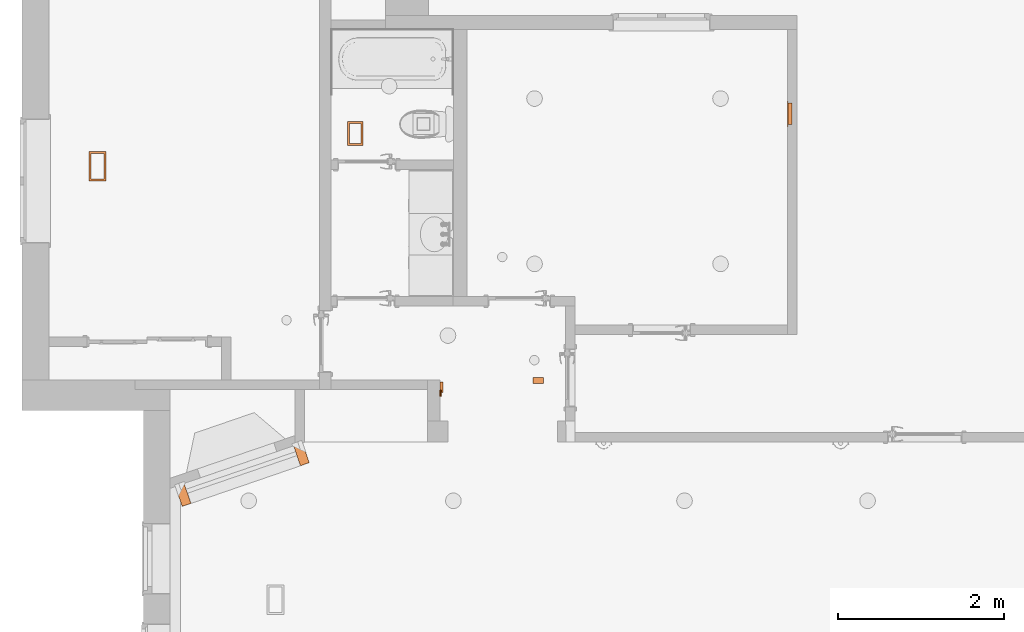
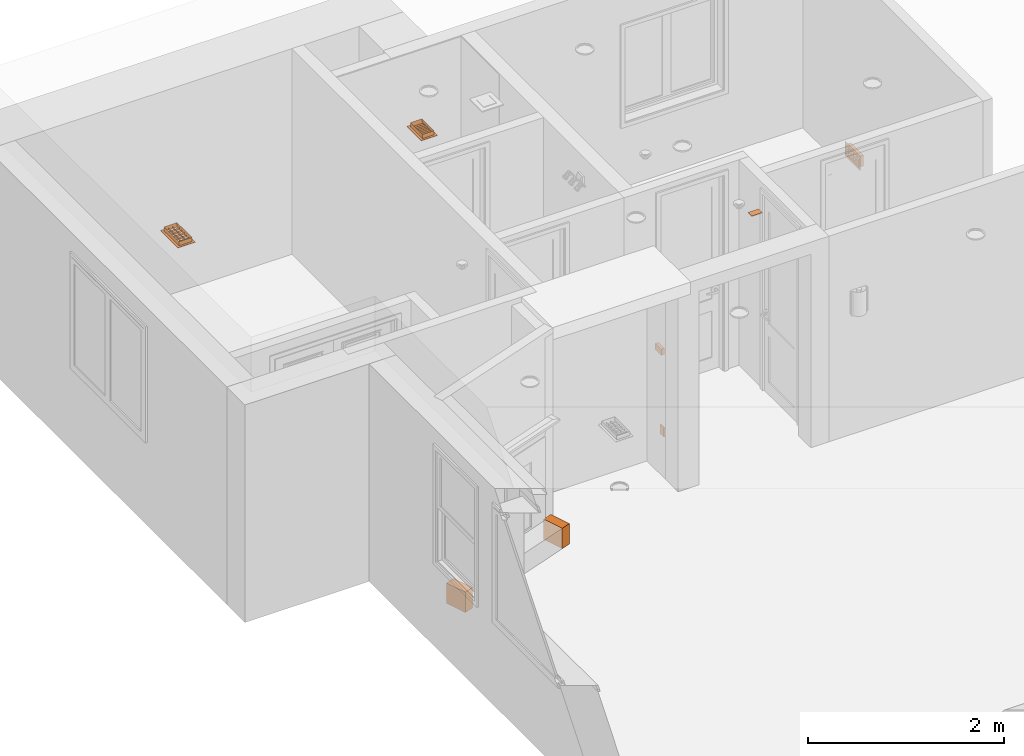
# One storey, part 23 of 24: 8 proxies.
"""IFC2X3 building model written with IfcOpenShell, lengths in inches."""

from ifc_helpers import new_model, entity, si_unit, converted_unit, derived_unit, money_unit, direction, frame, origin_with_axes, place, context, subcontext, project, spatial, open_shell, faceted_brep, surface_model, material, type_object, element, save


model = new_model("IFC2X3")

# Units and contexts
model_context = context("Model", 3, precision=0.000393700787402, world=origin_with_axes(), true_north=direction((0.0, 1.0)))
body_context = subcontext(model_context, "Body", "Model", "MODEL_VIEW")
ifc_project = project(units=[converted_unit("LENGTHUNIT", "INCH", entity("IfcPositiveLengthMeasure", 0.0254), si_unit("LENGTHUNIT", "METRE"), dimensions=[1, 0, 0, 0, 0, 0, 0]), converted_unit("AREAUNIT", "SQUARE_FOOT", entity("IfcPositiveLengthMeasure", 0.09290304), si_unit("AREAUNIT", "SQUARE_METRE"), dimensions=[2, 0, 0, 0, 0, 0, 0]), si_unit("PLANEANGLEUNIT", "RADIAN"), si_unit("SOLIDANGLEUNIT", "STERADIAN"), money_unit("USD"), converted_unit("TIMEUNIT", "Year", entity("IfcTimeMeasure", 31556926.0), si_unit("TIMEUNIT", "SECOND"), dimensions=[0, 0, 1, 0, 0, 0, 0]), si_unit("MASSUNIT", "GRAM", prefix="KILO"), si_unit("THERMODYNAMICTEMPERATUREUNIT", "DEGREE_CELSIUS"), si_unit("LUMINOUSINTENSITYUNIT", "LUMEN"), si_unit("ENERGYUNIT", "JOULE", prefix="MEGA"), derived_unit("THERMALCONDUCTANCEUNIT", [(si_unit("POWERUNIT", "WATT"), 1), (si_unit("LENGTHUNIT", "METRE"), -1), (si_unit("THERMODYNAMICTEMPERATUREUNIT", "KELVIN"), -1)]), derived_unit("SPECIFICHEATCAPACITYUNIT", [(si_unit("ENERGYUNIT", "JOULE"), 1), (si_unit("MASSUNIT", "GRAM", prefix="KILO"), -1), (si_unit("THERMODYNAMICTEMPERATUREUNIT", "KELVIN"), -1)]), derived_unit("MASSDENSITYUNIT", [(si_unit("MASSUNIT", "GRAM", prefix="KILO"), 1), (si_unit("VOLUMEUNIT", "CUBIC_METRE"), -1)])], contexts=[model_context])

# Site, building, storey
site_placement = place(None, origin_with_axes())
site = spatial("IfcSite", under=ifc_project, at=site_placement, Name="Site", CompositionType="ELEMENT")
building_placement = place(site_placement, origin_with_axes())
building = spatial("IfcBuilding", under=site, at=building_placement, Name="Building", CompositionType="ELEMENT")
storey_placement = place(building_placement, origin_with_axes())
storey = spatial("IfcBuildingStorey", under=building, at=storey_placement, Name="First Floor", CompositionType="ELEMENT", Elevation=0.0)

# Proxies
ifc_material = material(Name="Generic - Structural")
building_element_proxy_type_1 = type_object("IfcBuildingElementProxyType", Name="Generic - Structural", PredefinedType="NOTDEFINED")
proxy_1_placement = place(storey_placement, frame((1662.98964339, 401.098213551, 100.787401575), z_axis=(0.0, 0.0, 1.0), x_axis=(1.0, 0.0, 0.0)))
element("IfcBuildingElementProxy", 1, at=proxy_1_placement, inside=storey, type_object=building_element_proxy_type_1, material=ifc_material, Name="MORPH-014", context=body_context, shape_type="Brep", body=[
    faceted_brep([(-1200.0, -2.95381883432, 0.0), (-1200.0, 0.0, 0.0), (-1195.06293698, 0.0, 0.0), (-1195.06293698, -2.95381883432, 0.0), (-1200.0, -2.95381883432, 0.25), (-1200.0, 0.0, 0.25), (-1195.06293698, 0.0, 0.25), (-1195.06293698, -2.95381883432, 0.25)], [[[0, 1, 2, 3]], [[1, 0, 4, 5]], [[2, 1, 5, 6]], [[3, 2, 6]], [[0, 3, 7]], [[4, 0, 7]], [[5, 4, 7, 6]], [[7, 3, 6]]]),
])
proxy_2_placement = place(storey_placement, frame((418.622999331, 395.528794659, 11.6141732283), z_axis=(0.0, 0.0, 1.0), x_axis=(1.0, 0.0, 0.0)))
element("IfcBuildingElementProxy", 2, at=proxy_2_placement, inside=storey, type_object=building_element_proxy_type_1, material=ifc_material, Name="MO-01", context=body_context, shape_type="Brep", body=[
    faceted_brep([(-0.00155956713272, -3.46078669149, 0.0), (-0.00155956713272, -3.46078669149, 4.5), (0.0, -0.5, 4.5), (0.0, -0.5, 0.0), (0.579371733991, -3.46078669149, 0.0), (0.579371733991, -3.46078669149, 4.5), (0.579371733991, -0.5, 4.5), (0.579371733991, -0.5, 0.0)], [[[0, 1, 2, 3]], [[1, 0, 4]], [[2, 1, 5, 6]], [[2, 6, 7, 3]], [[0, 3, 7, 4]], [[5, 1, 4]], [[5, 4, 6]], [[7, 6, 4]]]),
])
proxy_3_placement = place(storey_placement, frame((1618.62143976, 398.904421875, 50.5905511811), z_axis=(0.0, 0.0, 1.0), x_axis=(1.0, 0.0, 0.0)))
element("IfcBuildingElementProxy", 3, at=proxy_3_placement, inside=storey, type_object=building_element_proxy_type_1, material=ifc_material, Name="MORPH-013", context=body_context, shape_type="Brep", body=[
    faceted_brep([(-1200.0, 0.0, 0.0), (-1200.0, -4.92993877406, 0.0), (-1200.0, -4.92993877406, 3.0), (-1200.0, 0.0, 3.0), (-1198.43556971, 0.0, 0.0), (-1198.43556971, -4.92993877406, 0.0), (-1198.43556971, -4.92993877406, 3.0), (-1198.43556971, 0.0, 3.0)], [[[0, 1, 2, 3]], [[1, 0, 4, 5]], [[2, 1, 6]], [[3, 2, 6, 7]], [[4, 0, 3, 7]], [[4, 7, 5]], [[1, 5, 6]], [[6, 5, 7]]]),
])
proxy_4_placement = place(storey_placement, frame((1556.40857705, 353.563761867, 9.97417076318), z_axis=(0.0, 0.0, 1.0), x_axis=(0.999981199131, -0.00613199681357, 0.0)))
element("IfcBuildingElementProxy", 4, at=proxy_4_placement, inside=storey, type_object=building_element_proxy_type_1, material=ifc_material, Name="MO-11", context=body_context, shape_type="Brep", body=[
    faceted_brep([(-1204.01221776, -1.82958149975, 0.00249214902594), (-1207.32072405, 7.60724971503, 0.00249214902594), (-1207.32072405, 7.60724971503, -9.97167861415), (-1199.86734949, -0.379045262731, 0.0), (-1203.16646595, 9.03095476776, 0.0), (-1204.01221776, -1.82958149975, -9.97167861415), (-1199.87269224, -0.380915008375, -9.97417076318), (-1203.16646595, 9.03095476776, -9.97417076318)], [[[0, 1, 2]], [[1, 0, 3, 4]], [[2, 1, 4]], [[2, 5, 0]], [[0, 5, 6, 3]], [[7, 4, 3]], [[7, 2, 4]], [[5, 2, 7, 6]], [[6, 7, 3]]]),
])
proxy_5_placement = place(storey_placement, frame((1500.40058775, 341.239752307, 9.97417076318), z_axis=(0.0, 0.0, 1.0), x_axis=(1.0, 0.0, 0.0)))
element("IfcBuildingElementProxy", 5, at=proxy_5_placement, inside=storey, type_object=building_element_proxy_type_1, material=ifc_material, Name="MO-11", context=body_context, shape_type="Brep", body=[
    faceted_brep([(-1207.45796587, 8.01063153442, -9.97167861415), (-1204.15021102, -1.45240598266, -9.97167861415), (-1204.14486827, -1.45053623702, 0.00249214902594), (-1203.31363551, 9.43532883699, -9.97417076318), (-1200.00534275, -0.00186974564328, -9.97417076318), (-1200.00534168, -0.00187278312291, 0.0), (-1207.45796587, 8.01063153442, 0.00249214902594), (-1203.31363551, 9.43532883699, 0.0)], [[[0, 1, 2]], [[1, 0, 3, 4]], [[2, 1, 4, 5]], [[2, 6, 0]], [[0, 7, 3]], [[4, 3, 5]], [[6, 2, 5, 7]], [[0, 6, 7]], [[3, 7, 5]]]),
])
building_element_proxy_type_2 = type_object("IfcBuildingElementProxyType", Name="Ceiling Grille 25", PredefinedType="NOTDEFINED")
proxy_6_placement = place(storey_placement, frame((256.013265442, 501.430794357, 101.0), z_axis=(0.0, 0.0, 1.0), x_axis=(-1.0, 0.0, 0.0)))
element("IfcBuildingElementProxy", 6, at=proxy_6_placement, inside=storey, type_object=building_element_proxy_type_2, Name="FU - 009", context=body_context, shape_type="SurfaceModel", body=[
    faceted_brep([(4.03543307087, 6.98818897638, -0.196850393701), (-4.03543307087, 6.98818897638, -0.196850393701), (-4.03543307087, 6.98818897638, 0.0), (4.03543307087, 6.98818897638, 0.0), (4.03543307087, -6.98818897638, -0.196850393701), (-4.03543307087, -6.98818897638, -0.196850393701), (3.05118110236, 6.00393700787, -0.196850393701), (-3.05118110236, 6.00393700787, -0.196850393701), (-3.05118110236, -6.00393700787, -0.196850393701), (3.05118110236, -6.00393700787, -0.196850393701), (-4.03543307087, -6.98818897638, 0.0), (4.03543307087, -6.98818897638, 0.0), (3.05118110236, 6.00393700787, 0.0), (3.05118110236, -6.00393700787, 0.0), (-3.05118110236, -6.00393700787, 0.0), (-3.05118110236, 6.00393700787, 0.0)], [[[0, 1, 2, 3]], [[0, 4, 5, 1], [6, 7, 8, 9]], [[1, 5, 10, 2]], [[3, 2, 10, 11], [12, 13, 14, 15]], [[4, 0, 3, 11]], [[5, 4, 11, 10]], [[7, 6, 12, 15]], [[8, 7, 15, 14]], [[9, 8, 14, 13]], [[6, 9, 13, 12]]]),
    surface_model("IfcShellBasedSurfaceModel", [(-3.01181102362, 5.90551181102, -0.196850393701), (3.01181102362, 5.90551181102, -0.196850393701), (3.01181102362, 5.90551181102, 0.787401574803), (-3.01181102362, 5.90551181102, 0.787401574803)], [open_shell([[[0, 1, 2, 3]]])]),
    surface_model("IfcShellBasedSurfaceModel", [(-3.01181102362, 3.93700787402, -0.196850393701), (3.01181102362, 3.93700787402, -0.196850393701), (3.01181102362, 3.93700787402, 0.787401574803), (-3.01181102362, 3.93700787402, 0.787401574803)], [open_shell([[[0, 1, 2, 3]]])]),
    surface_model("IfcShellBasedSurfaceModel", [(-3.01181102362, 1.96850393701, -0.196850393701), (3.01181102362, 1.96850393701, -0.196850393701), (3.01181102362, 1.96850393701, 0.787401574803), (-3.01181102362, 1.96850393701, 0.787401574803)], [open_shell([[[0, 1, 2, 3]]])]),
    surface_model("IfcShellBasedSurfaceModel", [(-3.01181102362, 0.0, -0.196850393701), (3.01181102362, 0.0, -0.196850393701), (3.01181102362, 0.0, 0.787401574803), (-3.01181102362, 0.0, 0.787401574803)], [open_shell([[[0, 1, 2, 3]]])]),
    surface_model("IfcShellBasedSurfaceModel", [(-3.01181102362, -1.96850393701, -0.196850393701), (3.01181102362, -1.96850393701, -0.196850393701), (3.01181102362, -1.96850393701, 0.787401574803), (-3.01181102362, -1.96850393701, 0.787401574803)], [open_shell([[[0, 1, 2, 3]]])]),
    surface_model("IfcShellBasedSurfaceModel", [(-3.01181102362, -3.93700787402, -0.196850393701), (3.01181102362, -3.93700787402, -0.196850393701), (3.01181102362, -3.93700787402, 0.787401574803), (-3.01181102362, -3.93700787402, 0.787401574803)], [open_shell([[[0, 1, 2, 3]]])]),
    surface_model("IfcShellBasedSurfaceModel", [(-3.01181102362, -5.90551181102, -0.196850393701), (3.01181102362, -5.90551181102, -0.196850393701), (3.01181102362, -5.90551181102, 0.787401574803), (-3.01181102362, -5.90551181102, 0.787401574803)], [open_shell([[[0, 1, 2, 3]]])]),
    surface_model("IfcShellBasedSurfaceModel", [(2.95275590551, -5.96456692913, -0.196850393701), (2.95275590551, 5.96456692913, -0.196850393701), (2.95275590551, 5.96456692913, 0.787401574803), (2.95275590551, -5.96456692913, 0.787401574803)], [open_shell([[[0, 1, 2, 3]]])]),
    surface_model("IfcShellBasedSurfaceModel", [(0.984251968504, -5.96456692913, -0.196850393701), (0.984251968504, 5.96456692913, -0.196850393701), (0.984251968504, 5.96456692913, 0.787401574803), (0.984251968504, -5.96456692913, 0.787401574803)], [open_shell([[[0, 1, 2, 3]]])]),
    surface_model("IfcShellBasedSurfaceModel", [(-0.984251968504, -5.96456692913, -0.196850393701), (-0.984251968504, 5.96456692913, -0.196850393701), (-0.984251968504, 5.96456692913, 0.787401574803), (-0.984251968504, -5.96456692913, 0.787401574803)], [open_shell([[[0, 1, 2, 3]]])]),
    surface_model("IfcShellBasedSurfaceModel", [(-2.95275590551, -5.96456692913, -0.196850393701), (-2.95275590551, 5.96456692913, -0.196850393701), (-2.95275590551, 5.96456692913, 0.787401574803), (-2.95275590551, -5.96456692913, 0.787401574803)], [open_shell([[[0, 1, 2, 3]]])]),
    surface_model("IfcShellBasedSurfaceModel", [(3.05118110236, -6.00393700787, 0.0), (3.05118110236, 6.00393700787, 0.0), (3.05118110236, 6.00393700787, 1.96850393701), (3.05118110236, -6.00393700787, 1.96850393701), (-3.05118110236, 6.00393700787, 0.0), (-3.05118110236, 6.00393700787, 1.96850393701), (-3.05118110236, -6.00393700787, 0.0), (-3.05118110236, -6.00393700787, 1.96850393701)], [open_shell([[[0, 1, 2, 3]], [[1, 4, 5, 2]], [[6, 0, 3, 7]], [[4, 6, 7, 5]]])]),
])
proxy_7_placement = place(storey_placement, frame((378.513737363, 516.986715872, 100.5), z_axis=(0.0, 0.0, 1.0), x_axis=(-1.0, 0.0, 0.0)))
element("IfcBuildingElementProxy", 7, at=proxy_7_placement, inside=storey, type_object=building_element_proxy_type_2, Name="FU - 009", context=body_context, shape_type="SurfaceModel", body=[
    faceted_brep([(3.74015748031, 5.80708661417, -0.196850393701), (-3.74015748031, 5.80708661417, -0.196850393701), (-3.74015748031, 5.80708661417, 0.0), (3.74015748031, 5.80708661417, 0.0), (3.74015748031, -5.80708661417, -0.196850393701), (-3.74015748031, -5.80708661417, -0.196850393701), (2.75590551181, 4.82283464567, -0.196850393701), (-2.75590551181, 4.82283464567, -0.196850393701), (-2.75590551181, -4.82283464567, -0.196850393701), (2.75590551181, -4.82283464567, -0.196850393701), (-3.74015748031, -5.80708661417, 0.0), (3.74015748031, -5.80708661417, 0.0), (2.75590551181, 4.82283464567, 0.0), (2.75590551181, -4.82283464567, 0.0), (-2.75590551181, -4.82283464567, 0.0), (-2.75590551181, 4.82283464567, 0.0)], [[[0, 1, 2, 3]], [[0, 4, 5, 1], [6, 7, 8, 9]], [[1, 5, 10, 2]], [[3, 2, 10, 11], [12, 13, 14, 15]], [[4, 0, 3, 11]], [[5, 4, 11, 10]], [[7, 6, 12, 15]], [[8, 7, 15, 14]], [[9, 8, 14, 13]], [[6, 9, 13, 12]]]),
    surface_model("IfcShellBasedSurfaceModel", [(-2.71653543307, 4.5, -0.196850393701), (2.71653543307, 4.5, -0.196850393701), (2.71653543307, 4.5, 0.787401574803), (-2.71653543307, 4.5, 0.787401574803)], [open_shell([[[0, 1, 2, 3]]])]),
    surface_model("IfcShellBasedSurfaceModel", [(-2.71653543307, 3.5, -0.196850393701), (2.71653543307, 3.5, -0.196850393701), (2.71653543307, 3.5, 0.787401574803), (-2.71653543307, 3.5, 0.787401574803)], [open_shell([[[0, 1, 2, 3]]])]),
    surface_model("IfcShellBasedSurfaceModel", [(-2.71653543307, 2.5, -0.196850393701), (2.71653543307, 2.5, -0.196850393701), (2.71653543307, 2.5, 0.787401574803), (-2.71653543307, 2.5, 0.787401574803)], [open_shell([[[0, 1, 2, 3]]])]),
    surface_model("IfcShellBasedSurfaceModel", [(-2.71653543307, 1.5, -0.196850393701), (2.71653543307, 1.5, -0.196850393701), (2.71653543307, 1.5, 0.787401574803), (-2.71653543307, 1.5, 0.787401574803)], [open_shell([[[0, 1, 2, 3]]])]),
    surface_model("IfcShellBasedSurfaceModel", [(-2.71653543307, 0.5, -0.196850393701), (2.71653543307, 0.5, -0.196850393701), (2.71653543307, 0.5, 0.787401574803), (-2.71653543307, 0.5, 0.787401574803)], [open_shell([[[0, 1, 2, 3]]])]),
    surface_model("IfcShellBasedSurfaceModel", [(-2.71653543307, -0.5, -0.196850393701), (2.71653543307, -0.5, -0.196850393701), (2.71653543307, -0.5, 0.787401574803), (-2.71653543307, -0.5, 0.787401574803)], [open_shell([[[0, 1, 2, 3]]])]),
    surface_model("IfcShellBasedSurfaceModel", [(-2.71653543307, -1.5, -0.196850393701), (2.71653543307, -1.5, -0.196850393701), (2.71653543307, -1.5, 0.787401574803), (-2.71653543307, -1.5, 0.787401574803)], [open_shell([[[0, 1, 2, 3]]])]),
    surface_model("IfcShellBasedSurfaceModel", [(-2.71653543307, -2.5, -0.196850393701), (2.71653543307, -2.5, -0.196850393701), (2.71653543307, -2.5, 0.787401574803), (-2.71653543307, -2.5, 0.787401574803)], [open_shell([[[0, 1, 2, 3]]])]),
    surface_model("IfcShellBasedSurfaceModel", [(-2.71653543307, -3.5, -0.196850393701), (2.71653543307, -3.5, -0.196850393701), (2.71653543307, -3.5, 0.787401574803), (-2.71653543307, -3.5, 0.787401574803)], [open_shell([[[0, 1, 2, 3]]])]),
    surface_model("IfcShellBasedSurfaceModel", [(-2.71653543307, -4.5, -0.196850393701), (2.71653543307, -4.5, -0.196850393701), (2.71653543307, -4.5, 0.787401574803), (-2.71653543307, -4.5, 0.787401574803)], [open_shell([[[0, 1, 2, 3]]])]),
    surface_model("IfcShellBasedSurfaceModel", [(2.75590551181, -4.82283464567, 0.0), (2.75590551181, 4.82283464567, 0.0), (2.75590551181, 4.82283464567, 1.96850393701), (2.75590551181, -4.82283464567, 1.96850393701), (-2.75590551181, 4.82283464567, 0.0), (-2.75590551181, 4.82283464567, 1.96850393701), (-2.75590551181, -4.82283464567, 0.0), (-2.75590551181, -4.82283464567, 1.96850393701)], [open_shell([[[0, 1, 2, 3]], [[1, 4, 5, 2]], [[6, 0, 3, 7]], [[4, 6, 7, 5]]])]),
])
building_element_proxy_type_3 = type_object("IfcBuildingElementProxyType", Name="Sidewall Grille 25", PredefinedType="NOTDEFINED")
proxy_8_placement = place(storey_placement, frame((583.989171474, 526.28217231, 10.6092519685), z_axis=(0.0, 0.0, 1.0), x_axis=(0.0, -1.0, 0.0)))
element("IfcBuildingElementProxy", 8, at=proxy_8_placement, inside=storey, type_object=building_element_proxy_type_3, Name="FU - 004", context=body_context, shape_type="SurfaceModel", body=[
    faceted_brep([(6.1092519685, -0.196850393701, -3.6092519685), (-6.1092519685, -0.196850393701, -3.6092519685), (-6.1092519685, 0.0, -3.6092519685), (6.1092519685, 0.0, -3.6092519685), (6.1092519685, -0.196850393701, 3.6092519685), (-6.1092519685, -0.196850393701, 3.6092519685), (5.125, -0.196850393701, -2.625), (-5.125, -0.196850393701, -2.625), (-5.125, -0.196850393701, 2.625), (5.125, -0.196850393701, 2.625), (-6.1092519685, 0.0, 3.6092519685), (6.1092519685, 0.0, 3.6092519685), (5.125, 0.0, -2.625), (5.125, 0.0, 2.625), (-5.125, 0.0, 2.625), (-5.125, 0.0, -2.625)], [[[0, 1, 2, 3]], [[0, 4, 5, 1], [6, 7, 8, 9]], [[1, 5, 10, 2]], [[3, 2, 10, 11], [12, 13, 14, 15]], [[4, 0, 3, 11]], [[5, 4, 11, 10]], [[7, 6, 12, 15]], [[8, 7, 15, 14]], [[9, 8, 14, 13]], [[6, 9, 13, 12]]]),
    surface_model("IfcShellBasedSurfaceModel", [(-5.08562992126, -0.196850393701, -1.96850393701), (5.08562992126, -0.196850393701, -1.96850393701), (5.08562992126, 0.787401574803, -1.96850393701), (-5.08562992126, 0.787401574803, -1.96850393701)], [open_shell([[[0, 1, 2, 3]]])]),
    surface_model("IfcShellBasedSurfaceModel", [(-5.08562992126, -0.196850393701, 0.0), (5.08562992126, -0.196850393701, 0.0), (5.08562992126, 0.787401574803, 0.0), (-5.08562992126, 0.787401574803, 0.0)], [open_shell([[[0, 1, 2, 3]]])]),
    surface_model("IfcShellBasedSurfaceModel", [(-5.08562992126, -0.196850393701, 1.96850393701), (5.08562992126, -0.196850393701, 1.96850393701), (5.08562992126, 0.787401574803, 1.96850393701), (-5.08562992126, 0.787401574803, 1.96850393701)], [open_shell([[[0, 1, 2, 3]]])]),
    surface_model("IfcShellBasedSurfaceModel", [(4.92125984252, -0.196850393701, 2.58562992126), (4.92125984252, -0.196850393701, -2.58562992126), (4.92125984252, 0.787401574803, -2.58562992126), (4.92125984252, 0.787401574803, 2.58562992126)], [open_shell([[[0, 1, 2, 3]]])]),
    surface_model("IfcShellBasedSurfaceModel", [(2.95275590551, -0.196850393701, 2.58562992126), (2.95275590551, -0.196850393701, -2.58562992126), (2.95275590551, 0.787401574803, -2.58562992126), (2.95275590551, 0.787401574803, 2.58562992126)], [open_shell([[[0, 1, 2, 3]]])]),
    surface_model("IfcShellBasedSurfaceModel", [(0.984251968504, -0.196850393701, 2.58562992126), (0.984251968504, -0.196850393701, -2.58562992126), (0.984251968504, 0.787401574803, -2.58562992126), (0.984251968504, 0.787401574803, 2.58562992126)], [open_shell([[[0, 1, 2, 3]]])]),
    surface_model("IfcShellBasedSurfaceModel", [(-0.984251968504, -0.196850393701, 2.58562992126), (-0.984251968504, -0.196850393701, -2.58562992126), (-0.984251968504, 0.787401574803, -2.58562992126), (-0.984251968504, 0.787401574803, 2.58562992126)], [open_shell([[[0, 1, 2, 3]]])]),
    surface_model("IfcShellBasedSurfaceModel", [(-2.95275590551, -0.196850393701, 2.58562992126), (-2.95275590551, -0.196850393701, -2.58562992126), (-2.95275590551, 0.787401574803, -2.58562992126), (-2.95275590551, 0.787401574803, 2.58562992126)], [open_shell([[[0, 1, 2, 3]]])]),
    surface_model("IfcShellBasedSurfaceModel", [(-4.92125984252, -0.196850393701, 2.58562992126), (-4.92125984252, -0.196850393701, -2.58562992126), (-4.92125984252, 0.787401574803, -2.58562992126), (-4.92125984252, 0.787401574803, 2.58562992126)], [open_shell([[[0, 1, 2, 3]]])]),
    surface_model("IfcShellBasedSurfaceModel", [(-5.125, 0.0, -2.625), (-5.125, 0.0, 2.625), (-5.125, 1.96850393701, 2.625), (-5.125, 1.96850393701, -2.625), (5.125, 0.0, 2.625), (5.125, 1.96850393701, 2.625), (5.125, 0.0, -2.625), (5.125, 1.96850393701, -2.625)], [open_shell([[[0, 1, 2, 3]], [[1, 4, 5, 2]], [[6, 0, 3, 7]], [[4, 6, 7, 5]]])]),
])

save(model, "model.ifc")
